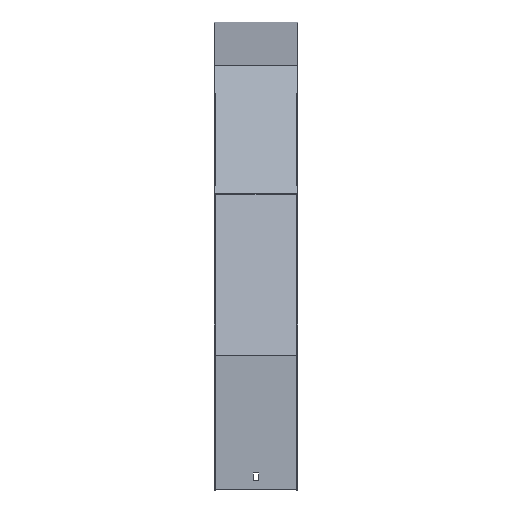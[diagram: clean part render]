
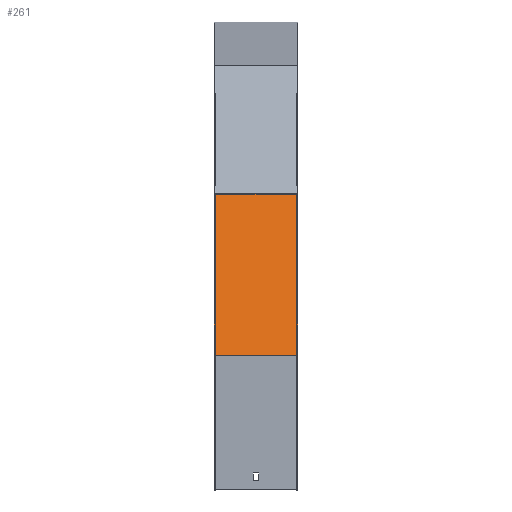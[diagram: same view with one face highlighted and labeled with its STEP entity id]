
A CAD part, top view. The second image highlights one B-rep face of the part: STEP entity #261.
In plain terms, the highlighted planar face has unit normal (0, 0.259, 0.966).
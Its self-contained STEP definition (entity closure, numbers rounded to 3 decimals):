
#9 = CARTESIAN_POINT ( 'NONE',  ( 51.5, -392.412, 579.045 ) ) ;
#108 = FACE_OUTER_BOUND ( 'NONE', #326, .T. ) ;
#117 = CARTESIAN_POINT ( 'NONE',  ( 51.5, -192.473, 525.472 ) ) ;
#124 = EDGE_CURVE ( 'NONE', #321, #943, #593, .T. ) ;
#161 = VECTOR ( 'NONE', #1096, 1000. ) ;
#261 = ADVANCED_FACE ( 'NONE', ( #108 ), #704, .F. ) ;
#262 = DIRECTION ( 'NONE',  ( -1., 0., 0. ) ) ;
#281 = EDGE_CURVE ( 'NONE', #911, #943, #834, .T. ) ;
#314 = VECTOR ( 'NONE', #625, 1000. ) ;
#321 = VERTEX_POINT ( 'NONE', #908 ) ;
#326 = EDGE_LOOP ( 'NONE', ( #705, #393, #835, #604 ) ) ;
#334 = VERTEX_POINT ( 'NONE', #648 ) ;
#365 = CARTESIAN_POINT ( 'NONE',  ( -51.5, -392.412, 579.045 ) ) ;
#393 = ORIENTED_EDGE ( 'NONE', *, *, #124, .F. ) ;
#511 = AXIS2_PLACEMENT_3D ( 'NONE', #698, #990, #874 ) ;
#534 = CARTESIAN_POINT ( 'NONE',  ( 51.5, -197.649, 526.859 ) ) ;
#593 = LINE ( 'NONE', #9, #900 ) ;
#604 = ORIENTED_EDGE ( 'NONE', *, *, #690, .T. ) ;
#625 = DIRECTION ( 'NONE',  ( -1., 0., 0. ) ) ;
#641 = CARTESIAN_POINT ( 'NONE',  ( -51.5, -197.649, 526.859 ) ) ;
#648 = CARTESIAN_POINT ( 'NONE',  ( 51.5, -192.473, 525.472 ) ) ;
#690 = EDGE_CURVE ( 'NONE', #334, #911, #1056, .T. ) ;
#698 = CARTESIAN_POINT ( 'NONE',  ( 51.5, -197.649, 526.859 ) ) ;
#704 = PLANE ( 'NONE',  #511 ) ;
#705 = ORIENTED_EDGE ( 'NONE', *, *, #281, .T. ) ;
#734 = EDGE_CURVE ( 'NONE', #334, #321, #968, .T. ) ;
#784 = VECTOR ( 'NONE', #883, 1000. ) ;
#834 = LINE ( 'NONE', #641, #161 ) ;
#835 = ORIENTED_EDGE ( 'NONE', *, *, #734, .F. ) ;
#874 = DIRECTION ( 'NONE',  ( 0., 0.966, -0.259 ) ) ;
#883 = DIRECTION ( 'NONE',  ( 0., -0.966, 0.259 ) ) ;
#900 = VECTOR ( 'NONE', #262, 1000. ) ;
#908 = CARTESIAN_POINT ( 'NONE',  ( 51.5, -392.412, 579.045 ) ) ;
#911 = VERTEX_POINT ( 'NONE', #1026 ) ;
#943 = VERTEX_POINT ( 'NONE', #365 ) ;
#968 = LINE ( 'NONE', #534, #784 ) ;
#990 = DIRECTION ( 'NONE',  ( 0., -0.259, -0.966 ) ) ;
#1026 = CARTESIAN_POINT ( 'NONE',  ( -51.5, -192.473, 525.472 ) ) ;
#1056 = LINE ( 'NONE', #117, #314 ) ;
#1096 = DIRECTION ( 'NONE',  ( 0., -0.966, 0.259 ) ) ;
